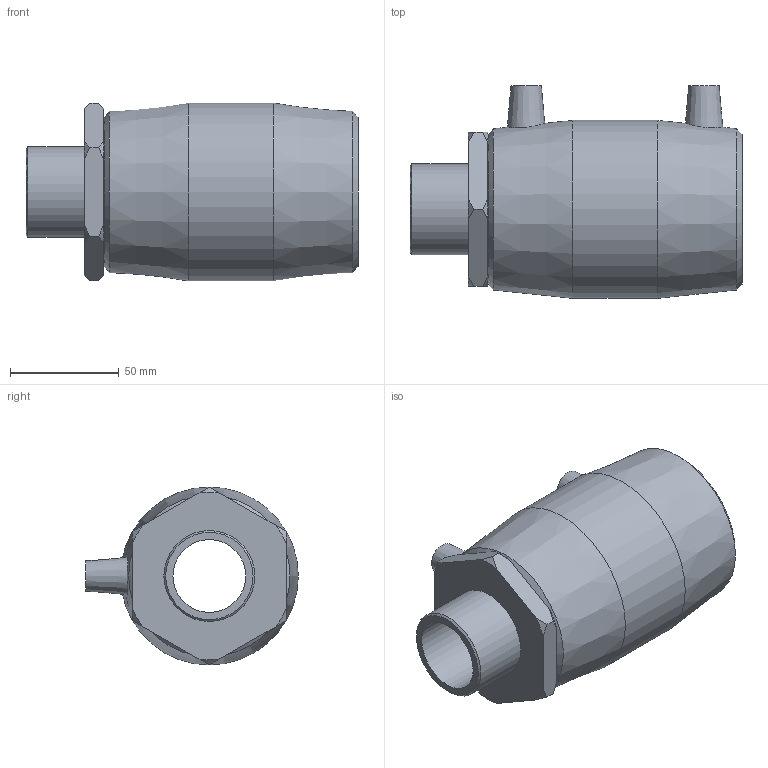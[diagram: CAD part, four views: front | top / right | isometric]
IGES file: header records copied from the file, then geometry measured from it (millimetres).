
Global section: file name: 492104063013.ipt; native system: Autodesk Inventor 2015; preprocessor: unknown; author: KIM; date: 20200202.122321; units: millimetre
Bounding box: 153 x 98 x 82 mm (x, y, z)
Volume: 334611.7 mm3; surface area: 74472.5 mm2
Topology: 1 solids, 2 shells, 54 faces, 129 edges, 88 vertices
Faces by surface type: plane 21, cone 19, revolution 8, cylinder 6
Full cylindrical faces by diameter (mm): 4 x2, 41.91 x1, 63 x2, 82 x1
